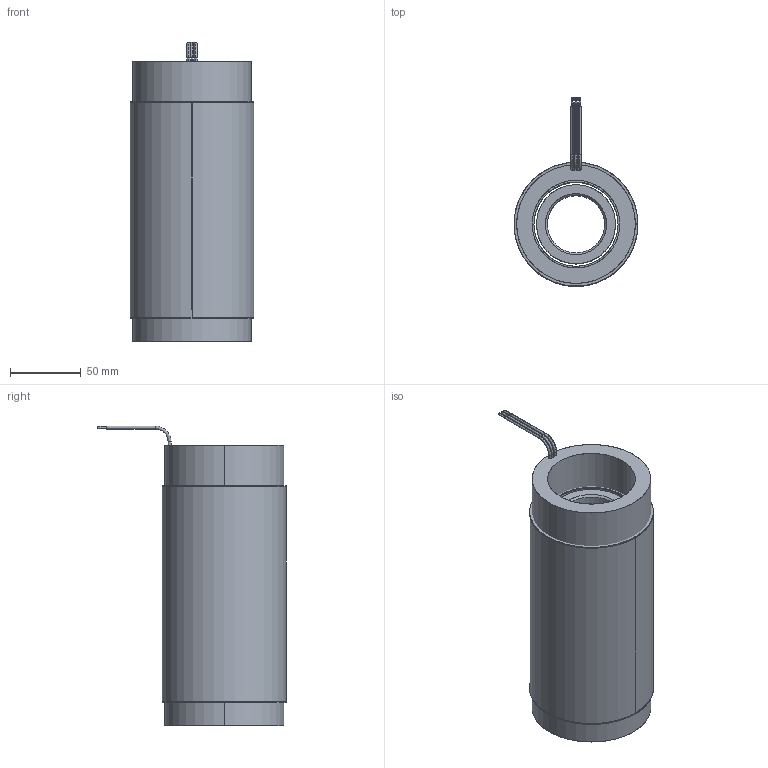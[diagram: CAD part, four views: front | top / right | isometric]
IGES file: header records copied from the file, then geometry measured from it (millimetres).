
Start section: SolidWorks IGES file using analytic representation for surfaces
Global section: file name: \\fs01.aveox.local\user documents\eng\My Documents\STANDARD STATOR ROTOR SETS\Standard rotor and stator set released\3.45 inch stator diameter\6100253-07.IGS; native system: SolidWorks 2016; preprocessor: SolidWorks 2016; author: eng; date: 191111.092228; units: millimetre
Bounding box: 87.63 x 133.34 x 212.09 mm (x, y, z)
Surface area: 248851.9 mm2 (no closed solid volume)
Topology: 0 solids, 0 shells, 91 faces, 2412 edges, 2412 vertices
Faces by surface type: revolution 65, bspline 26
